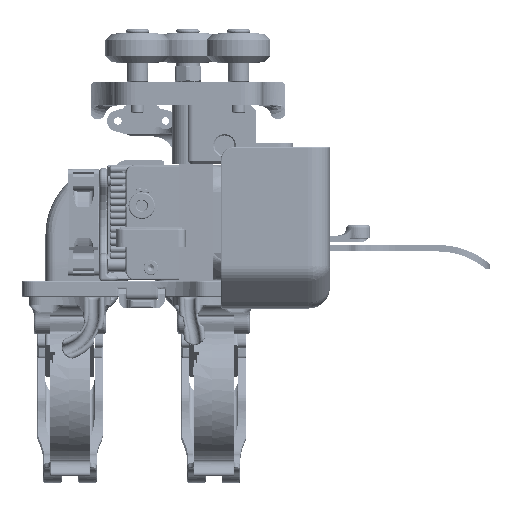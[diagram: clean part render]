
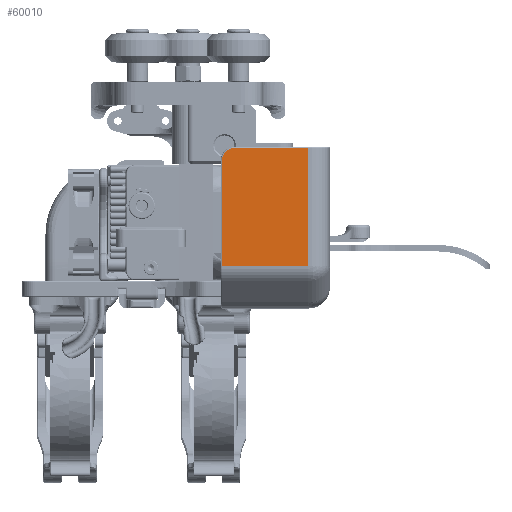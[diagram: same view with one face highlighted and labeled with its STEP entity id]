
A CAD part, left-side view. The second image highlights one B-rep face of the part: STEP entity #60010.
In plain terms, the highlighted planar face has unit normal (-1, 0, 0) as drawn and (0, -1, 0) by its records, which use the part's own axes.
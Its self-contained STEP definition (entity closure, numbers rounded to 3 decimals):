
#59975=AXIS2_PLACEMENT_3D('Plane Axis2P3D',#59972,#59973,#59974) ;
#59988=AXIS2_PLACEMENT_3D('Circle Axis2P3D',#59986,#59987,$) ;
#56856=CARTESIAN_POINT('Vertex',(16.114,-6.,8.)) ;
#59953=CARTESIAN_POINT('Line Origine',(16.114,-6.,20.43)) ;
#59957=CARTESIAN_POINT('Vertex',(16.114,-6.,40.5)) ;
#59972=CARTESIAN_POINT('Axis2P3D Location',(60.8,-6.,0.)) ;
#59977=CARTESIAN_POINT('Line Origine',(60.3,-6.,21.9)) ;
#59981=CARTESIAN_POINT('Vertex',(60.3,-6.,8.)) ;
#59983=CARTESIAN_POINT('Vertex',(60.3,-6.,35.8)) ;
#59986=CARTESIAN_POINT('Axis2P3D Location',(55.6,-6.,35.8)) ;
#59990=CARTESIAN_POINT('Vertex',(55.6,-6.,40.5)) ;
#59993=CARTESIAN_POINT('Line Origine',(35.857,-6.,40.5)) ;
#59998=CARTESIAN_POINT('Line Origine',(38.207,-6.,8.)) ;
#59954=DIRECTION('Vector Direction',(0.,0.,1.)) ;
#59973=DIRECTION('Axis2P3D Direction',(-0.,1.,0.)) ;
#59974=DIRECTION('Axis2P3D XDirection',(-1.,-0.,0.)) ;
#59978=DIRECTION('Vector Direction',(0.,0.,-1.)) ;
#59987=DIRECTION('Axis2P3D Direction',(-0.,1.,0.)) ;
#59994=DIRECTION('Vector Direction',(1.,0.,0.)) ;
#59999=DIRECTION('Vector Direction',(-1.,0.,0.)) ;
#59955=VECTOR('Line Direction',#59954,1.) ;
#59979=VECTOR('Line Direction',#59978,1.) ;
#59995=VECTOR('Line Direction',#59994,1.) ;
#60000=VECTOR('Line Direction',#59999,1.) ;
#60004=ORIENTED_EDGE('',*,*,#59985,.T.) ;
#60005=ORIENTED_EDGE('',*,*,#59992,.T.) ;
#60006=ORIENTED_EDGE('',*,*,#59997,.T.) ;
#60007=ORIENTED_EDGE('',*,*,#59959,.F.) ;
#60008=ORIENTED_EDGE('',*,*,#60002,.F.) ;
#60010=ADVANCED_FACE('HEMERA_Doppia_5015_senza_Ventola',(#60009),#59976,.F.) ;
#59989=CIRCLE('generated circle',#59988,4.7) ;
#59959=EDGE_CURVE('',#56857,#59958,#59956,.T.) ;
#59985=EDGE_CURVE('',#59982,#59984,#59980,.F.) ;
#59992=EDGE_CURVE('',#59984,#59991,#59989,.F.) ;
#59997=EDGE_CURVE('',#59991,#59958,#59996,.F.) ;
#60002=EDGE_CURVE('',#59982,#56857,#60001,.T.) ;
#60003=EDGE_LOOP('',(#60004,#60005,#60006,#60007,#60008)) ;
#60009=FACE_OUTER_BOUND('',#60003,.T.) ;
#59956=LINE('Line',#59953,#59955) ;
#59980=LINE('Line',#59977,#59979) ;
#59996=LINE('Line',#59993,#59995) ;
#60001=LINE('Line',#59998,#60000) ;
#59976=PLANE('',#59975) ;
#56857=VERTEX_POINT('',#56856) ;
#59958=VERTEX_POINT('',#59957) ;
#59982=VERTEX_POINT('',#59981) ;
#59984=VERTEX_POINT('',#59983) ;
#59991=VERTEX_POINT('',#59990) ;
